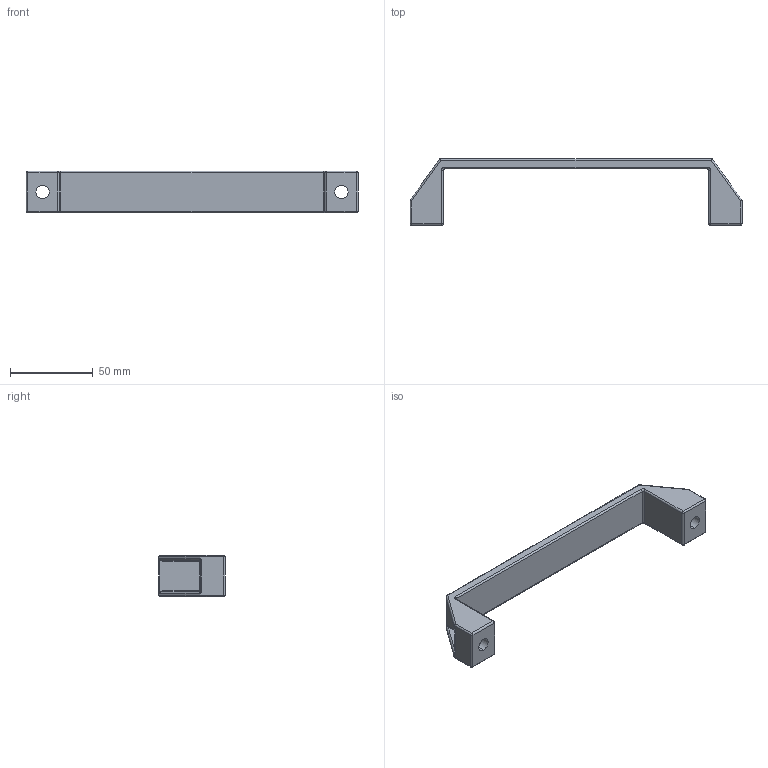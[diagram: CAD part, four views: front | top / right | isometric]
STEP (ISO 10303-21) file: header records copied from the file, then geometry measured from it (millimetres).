
FILE_DESCRIPTION (( 'STEP AP203' ), '1' );
FILE_NAME ('3011.STEP', '2016-04-16T16:17:56', ( '' ), ( '' ), 'SwSTEP 2.0', 'SolidWorks 2014', '' );
FILE_SCHEMA (( 'CONFIG_CONTROL_DESIGN' ));
Length unit declared in the file: millimetre
Products named in the file (1): 3011
Bounding box: 200 x 40 x 25 mm (x, y, z)
Volume: 40154.1 mm3; surface area: 18942.3 mm2
Topology: 1 solids, 1 shells, 124 faces, 294 edges, 156 vertices
Faces by surface type: cylinder 51, plane 24, bspline 17, torus 16, sphere 16
Entity records: 4028 total; most frequent: CARTESIAN_POINT 1330, DIRECTION 560, ORIENTED_EDGE 556, EDGE_CURVE 278, AXIS2_PLACEMENT_3D 229, VERTEX_POINT 156, EDGE_LOOP 128, FACE_OUTER_BOUND 124
